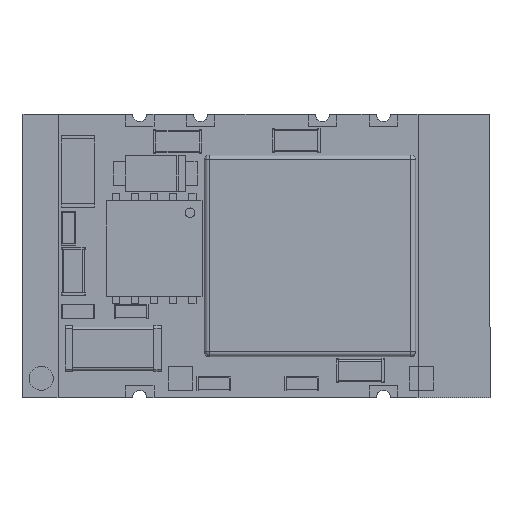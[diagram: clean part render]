
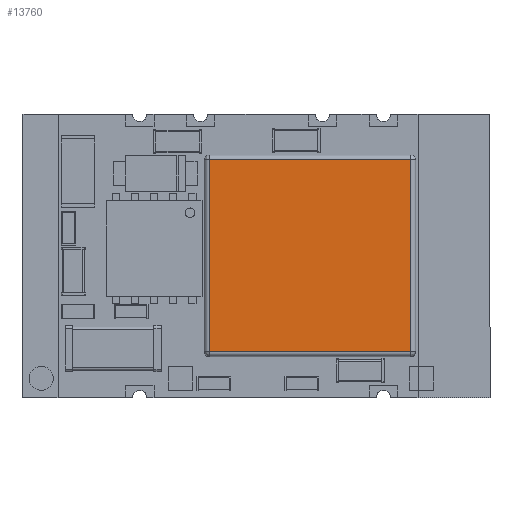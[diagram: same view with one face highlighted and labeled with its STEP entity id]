
A CAD part, top view. The second image highlights one B-rep face of the part: STEP entity #13760.
In plain terms, the highlighted planar face has unit normal (0, 0, 1).
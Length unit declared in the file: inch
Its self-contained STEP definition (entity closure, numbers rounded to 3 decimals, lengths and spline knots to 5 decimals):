
#215 = DIRECTION ( 'NONE',  ( 0., 0., 1. ) ) ;
#2040 = VECTOR ( 'NONE', #6641, 39.37008 ) ;
#2408 = PLANE ( 'NONE',  #12833 ) ;
#2877 = DIRECTION ( 'NONE',  ( -1., 0., 0. ) ) ;
#2981 = CARTESIAN_POINT ( 'NONE',  ( 0., -0.15768, 0.17323 ) ) ;
#3616 = DIRECTION ( 'NONE',  ( 1., 0., 0. ) ) ;
#3650 = EDGE_LOOP ( 'NONE', ( #5638, #6959, #8009, #10418 ) ) ;
#4186 = LINE ( 'NONE', #5054, #12903 ) ;
#4328 = EDGE_CURVE ( 'NONE', #9192, #13563, #4358, .T. ) ;
#4358 = LINE ( 'NONE', #2981, #14341 ) ;
#4871 = VERTEX_POINT ( 'NONE', #7516 ) ;
#4924 = VECTOR ( 'NONE', #14155, 39.37008 ) ;
#5054 = CARTESIAN_POINT ( 'NONE',  ( 0.25413, 0., 0.17323 ) ) ;
#5240 = CARTESIAN_POINT ( 'NONE',  ( 0.25413, -0.15768, 0.17323 ) ) ;
#5638 = ORIENTED_EDGE ( 'NONE', *, *, #9794, .F. ) ;
#6166 = DIRECTION ( 'NONE',  ( 0., -1., 0. ) ) ;
#6415 = CARTESIAN_POINT ( 'NONE',  ( -0.07697, 0.15768, 0.17323 ) ) ;
#6556 = FACE_OUTER_BOUND ( 'NONE', #3650, .T. ) ;
#6641 = DIRECTION ( 'NONE',  ( 1., 0., 0. ) ) ;
#6959 = ORIENTED_EDGE ( 'NONE', *, *, #9574, .F. ) ;
#7044 = LINE ( 'NONE', #14206, #4924 ) ;
#7516 = CARTESIAN_POINT ( 'NONE',  ( 0.25413, 0.15768, 0.17323 ) ) ;
#8009 = ORIENTED_EDGE ( 'NONE', *, *, #4328, .F. ) ;
#9192 = VERTEX_POINT ( 'NONE', #5240 ) ;
#9574 = EDGE_CURVE ( 'NONE', #13563, #10804, #7044, .T. ) ;
#9794 = EDGE_CURVE ( 'NONE', #10804, #4871, #10091, .T. ) ;
#10091 = LINE ( 'NONE', #14605, #2040 ) ;
#10238 = EDGE_CURVE ( 'NONE', #4871, #9192, #4186, .T. ) ;
#10418 = ORIENTED_EDGE ( 'NONE', *, *, #10238, .F. ) ;
#10804 = VERTEX_POINT ( 'NONE', #6415 ) ;
#12833 = AXIS2_PLACEMENT_3D ( 'NONE', #12872, #215, #3616 ) ;
#12872 = CARTESIAN_POINT ( 'NONE',  ( 0., 0., 0.17323 ) ) ;
#12903 = VECTOR ( 'NONE', #6166, 39.37008 ) ;
#13502 = CARTESIAN_POINT ( 'NONE',  ( -0.07697, -0.15768, 0.17323 ) ) ;
#13563 = VERTEX_POINT ( 'NONE', #13502 ) ;
#13760 = ADVANCED_FACE ( 'NONE', ( #6556 ), #2408, .T. ) ;
#14155 = DIRECTION ( 'NONE',  ( 0., 1., 0. ) ) ;
#14206 = CARTESIAN_POINT ( 'NONE',  ( -0.07697, 0., 0.17323 ) ) ;
#14341 = VECTOR ( 'NONE', #2877, 39.37008 ) ;
#14605 = CARTESIAN_POINT ( 'NONE',  ( 0., 0.15768, 0.17323 ) ) ;
